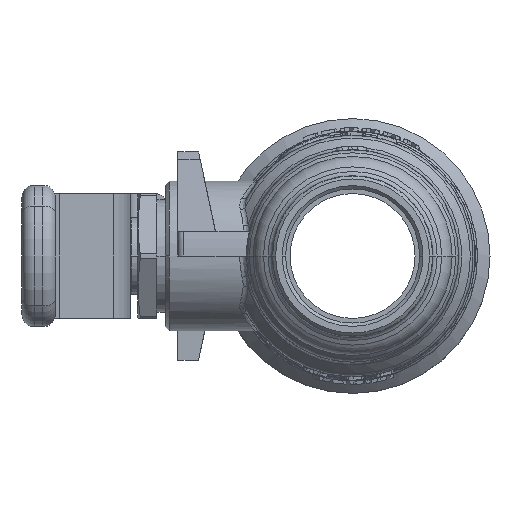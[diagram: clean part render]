
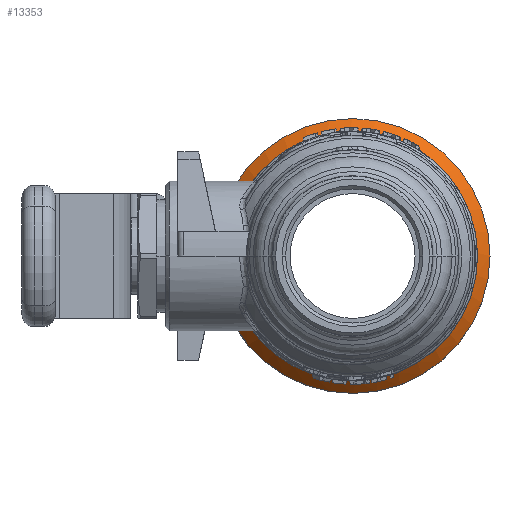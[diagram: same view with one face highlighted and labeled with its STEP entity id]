
A CAD part, left-side view. The second image highlights one B-rep face of the part: STEP entity #13353.
In plain terms, the highlighted conical face has half-angle 45 degrees and reference radius 15.75 mm.
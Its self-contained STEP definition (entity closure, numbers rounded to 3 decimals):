
#230=CARTESIAN_POINT('',(9.5,14.825,2.284));
#939=CARTESIAN_POINT('',(11.,0.,0.));
#940=DIRECTION('',(1.,0.,0.));
#941=DIRECTION('',(0.,-1.,0.));
#942=AXIS2_PLACEMENT_3D('',#939,#940,#941);
#2287=CARTESIAN_POINT('',(11.,0.,0.));
#2288=DIRECTION('',(-1.,0.,0.));
#2289=DIRECTION('',(0.,-1.,0.));
#2290=AXIS2_PLACEMENT_3D('',#2287,#2288,#2289);
#2296=DIRECTION('',(-0.707,-0.707,0.));
#2297=VECTOR('',#2296,2.061);
#2298=CARTESIAN_POINT('',(11.,16.5,0.));
#2299=LINE('',#2298,#2297);
#2300=CARTESIAN_POINT('',(11.,16.225,-3.));
#2301=CARTESIAN_POINT('',(10.829,16.052,-3.));
#2302=CARTESIAN_POINT('',(10.491,15.707,-3.));
#2303=CARTESIAN_POINT('',(9.991,15.198,-3.));
#2304=CARTESIAN_POINT('',(9.663,14.863,-3.));
#2305=CARTESIAN_POINT('',(9.5,14.697,-3.));
#2307=CARTESIAN_POINT('',(9.5,0.,0.));
#2308=DIRECTION('',(-1.,0.,0.));
#2309=DIRECTION('',(0.,0.98,-0.2));
#2310=AXIS2_PLACEMENT_3D('',#2307,#2308,#2309);
#2312=CARTESIAN_POINT('',(9.543,15.043,0.));
#2313=CARTESIAN_POINT('',(9.543,15.043,0.152));
#2314=CARTESIAN_POINT('',(9.54,15.036,0.458));
#2315=CARTESIAN_POINT('',(9.532,15.006,0.917));
#2316=CARTESIAN_POINT('',(9.519,14.958,1.377));
#2317=CARTESIAN_POINT('',(9.505,14.895,1.836));
#2318=CARTESIAN_POINT('',(9.5,14.848,2.135));
#2319=CARTESIAN_POINT('',(9.5,14.825,2.284));
#9792=CARTESIAN_POINT('',(11.,16.5,0.));
#9794=VERTEX_POINT('',#9792);
#9795=VERTEX_POINT('',#2300);
#9796=VERTEX_POINT('',#2305);
#9798=CARTESIAN_POINT('',(11.,-16.5,0.));
#9799=VERTEX_POINT('',#9798);
#9838=VERTEX_POINT('',#230);
#10241=CARTESIAN_POINT('',(9.543,15.043,0.));
#10242=VERTEX_POINT('',#10241);
#13339=CARTESIAN_POINT('',(10.25,0.,0.));
#13340=DIRECTION('',(1.,0.,0.));
#13341=DIRECTION('',(0.,-1.,0.));
#13342=AXIS2_PLACEMENT_3D('',#13339,#13340,#13341);
#13343=CONICAL_SURFACE('',#13342,15.75,45.);
#13344=ORIENTED_EDGE('',*,*,#13316,.F.);
#13345=ORIENTED_EDGE('',*,*,#13332,.F.);
#13346=ORIENTED_EDGE('',*,*,#11725,.T.);
#13347=ORIENTED_EDGE('',*,*,#11644,.T.);
#13348=ORIENTED_EDGE('',*,*,#11336,.T.);
#13350=ORIENTED_EDGE('',*,*,#13349,.F.);
#13351=EDGE_LOOP('',(#13344,#13345,#13346,#13347,#13348,#13350));
#13352=FACE_OUTER_BOUND('',#13351,.F.);
#13353=ADVANCED_FACE('',(#13352),#13343,.T.);
#943=CIRCLE('',#942,16.5);
#2291=CIRCLE('',#2290,16.5);
#2306=B_SPLINE_CURVE_WITH_KNOTS('',3,(#2300,#2301,#2302,#2303,#2304,#2305),
.UNSPECIFIED.,.F.,.F.,(4,1,1,4),(0.,0.333,0.667,1.),
.UNSPECIFIED.);
#2311=CIRCLE('',#2310,15.);
#2320=B_SPLINE_CURVE_WITH_KNOTS('',3,(#2312,#2313,#2314,#2315,#2316,#2317,#2318,
#2319),.UNSPECIFIED.,.F.,.F.,(4,1,1,1,1,4),(0.,0.2,0.4,0.6,0.8,1.),
.UNSPECIFIED.);
#11336=EDGE_CURVE('',#9796,#9838,#2311,.T.);
#11644=EDGE_CURVE('',#9795,#9796,#2306,.T.);
#11725=EDGE_CURVE('',#9799,#9795,#943,.T.);
#13316=EDGE_CURVE('',#9794,#10242,#2299,.T.);
#13332=EDGE_CURVE('',#9799,#9794,#2291,.T.);
#13349=EDGE_CURVE('',#10242,#9838,#2320,.T.);
